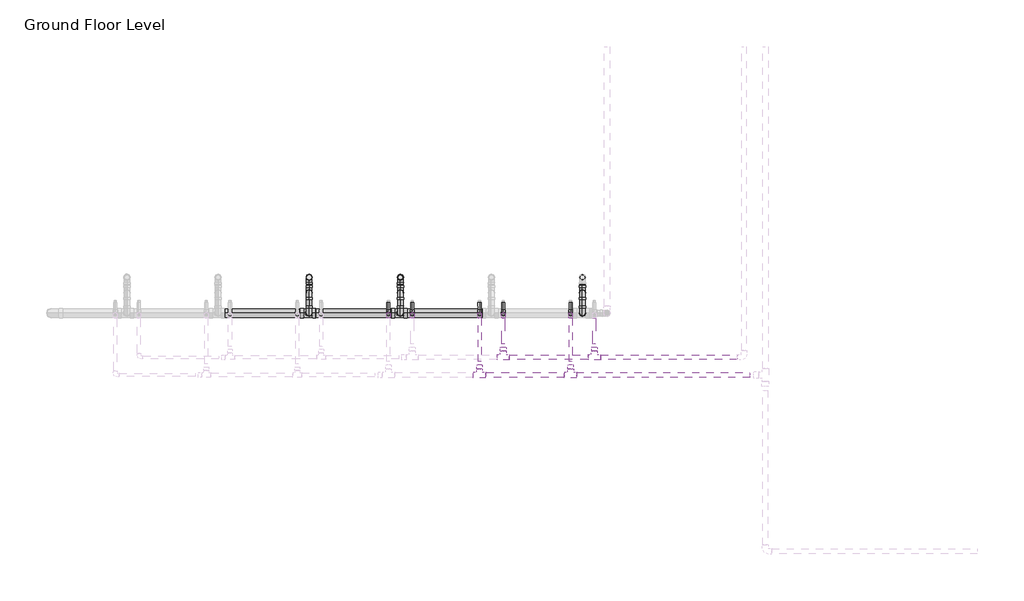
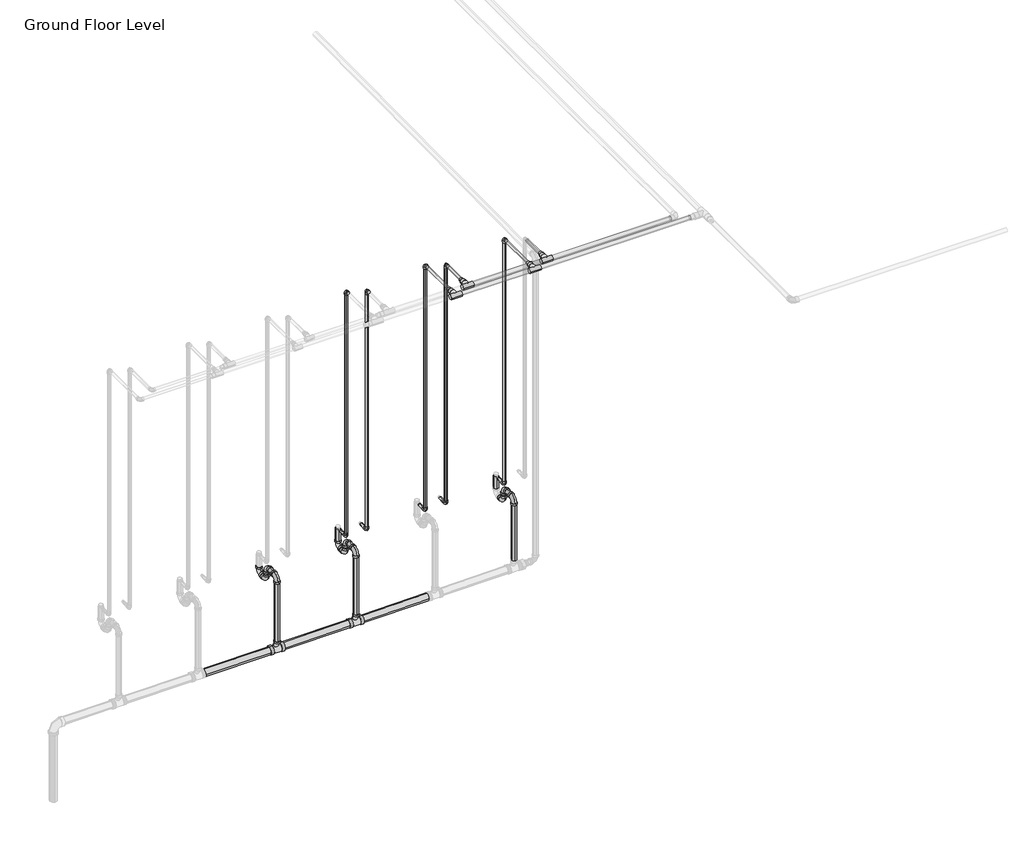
# One storey, part 40 of 68: 34 pipe segments, 31 pipe fittings.
"""IFC4 building model written with IfcOpenShell, lengths in millimetres."""

from ifc_helpers import new_model, si_unit, point, frame, frame_2d, origin, place, context, project, spatial, circle_curve, trimmed, segment, composite_curve, outline, extrude, transform, mapped, element, save
from components import m_bend_pvc_sch_40_dwv_standard_1e7bdcc1, m_bend_pvc_sch_40_dwv_standard_776e50c4, m_tee_reducing_sanitary_pvc_sch_40_dwv_standard_21d2848c, standard_b266ab3f, standard_08ff6011, standard_83629b21

model = new_model("IFC4")

# Units and contexts
model_context = context("Model", 3, world=origin())
ifc_project = project(units=[si_unit("LENGTHUNIT", "METRE", prefix="MILLI")], contexts=[model_context])

# Site, building, storey
site = spatial("IfcSite", under=ifc_project)
building = spatial("IfcBuilding", under=site)
storey = spatial("IfcBuildingStorey", under=building, Name="Ground Floor Level", Elevation=900.0)

# Pipe fittings
placement = place(None, origin())
m_bend_pvc_sch_40_dwv_standard_shape = m_bend_pvc_sch_40_dwv_standard_1e7bdcc1(model_context)
element("IfcPipeFitting", 1, ObjectType="M_Bend - PVC - Sch 40 - DWV : Standard", at=placement, inside=storey, context=model_context, shape_type="MappedRepresentation", body=[
    mapped(m_bend_pvc_sch_40_dwv_standard_shape, transform((-17061.2502, 9143.7835646, 1498.2), x_axis=(0.0, -0.9999500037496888, -0.00999950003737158), y_axis=(0.0, 0.00999950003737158, -0.9999500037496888), z_axis=(1.0, 0.0, 0.0))),
])
element("IfcPipeFitting", 2, ObjectType="M_Bend - PVC - Sch 40 - DWV : Standard", at=placement, inside=storey, context=model_context, shape_type="MappedRepresentation", body=[
    mapped(m_bend_pvc_sch_40_dwv_standard_shape, transform((-18661.2502, 9458.7835646, 1360.0), x_axis=(0.0, 0.9999500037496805, 0.009999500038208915), y_axis=(0.0, -0.009999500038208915, 0.9999500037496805), z_axis=(1.0, 0.0, 0.0))),
])
element("IfcPipeFitting", 3, ObjectType="M_Bend - PVC - Sch 40 - DWV : Standard", at=placement, inside=storey, context=model_context, shape_type="MappedRepresentation", body=[
    mapped(m_bend_pvc_sch_40_dwv_standard_shape, transform((-19461.2502, 9458.7835646, 1360.0), x_axis=(0.0, 0.9999500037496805, 0.009999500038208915), y_axis=(0.0, -0.009999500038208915, 0.9999500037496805), z_axis=(1.0, 0.0, 0.0))),
])
element("IfcPipeFitting", 4, ObjectType="M_Bend - PVC - Sch 40 - DWV : Standard", at=placement, inside=storey, context=model_context, shape_type="MappedRepresentation", body=[
    mapped(m_bend_pvc_sch_40_dwv_standard_shape, transform((-18661.2502, 9143.7835646, 1498.2), x_axis=(0.0, -0.9999500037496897, -0.00999950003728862), y_axis=(0.0, 0.00999950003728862, -0.9999500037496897), z_axis=(1.0, 0.0, 0.0))),
])
element("IfcPipeFitting", 5, ObjectType="M_Bend - PVC - Sch 40 - DWV : Standard", at=placement, inside=storey, context=model_context, shape_type="MappedRepresentation", body=[
    mapped(m_bend_pvc_sch_40_dwv_standard_shape, transform((-19461.2502, 9143.7835646, 1498.2), x_axis=(0.0, -0.9999500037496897, -0.00999950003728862), y_axis=(0.0, 0.00999950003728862, -0.9999500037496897), z_axis=(1.0, 0.0, 0.0))),
])
m_bend_pvc_sch_40_dwv_standard_2_shape = m_bend_pvc_sch_40_dwv_standard_776e50c4(model_context)
element("IfcPipeFitting", 6, ObjectType="M_Bend - PVC - Sch 40 - DWV : Standard", at=placement, inside=storey, context=model_context, shape_type="MappedRepresentation", body=[
    mapped(m_bend_pvc_sch_40_dwv_standard_2_shape, transform((-17061.2502, 9323.7835646, 1358.65), x_axis=(0.0, -0.9999500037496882, -0.009999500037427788), y_axis=(0.0, -0.009999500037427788, 0.9999500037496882), z_axis=(-1.0, 0.0, 0.0))),
])
element("IfcPipeFitting", 7, ObjectType="M_Bend - PVC - Sch 40 - DWV : Standard", at=placement, inside=storey, context=model_context, shape_type="MappedRepresentation", body=[
    mapped(m_bend_pvc_sch_40_dwv_standard_2_shape, transform((-17061.2502, 9323.7835646, 1500.0), x_axis=(0.0, 0.0, 1.0), y_axis=(0.0, -1.0, 0.0), z_axis=(1.0, 0.0, 0.0))),
])
element("IfcPipeFitting", 8, ObjectType="M_Bend - PVC - Sch 40 - DWV : Standard", at=placement, inside=storey, context=model_context, shape_type="MappedRepresentation", body=[
    mapped(m_bend_pvc_sch_40_dwv_standard_2_shape, transform((-18661.2502, 9323.7835646, 1358.65), x_axis=(0.0, -0.9999500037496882, -0.009999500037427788), y_axis=(0.0, -0.009999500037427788, 0.9999500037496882), z_axis=(-1.0, 0.0, 0.0))),
])
element("IfcPipeFitting", 9, ObjectType="M_Bend - PVC - Sch 40 - DWV : Standard", at=placement, inside=storey, context=model_context, shape_type="MappedRepresentation", body=[
    mapped(m_bend_pvc_sch_40_dwv_standard_2_shape, transform((-18661.2502, 9323.7835646, 1500.0), x_axis=(0.0, 0.0, 1.0), y_axis=(0.0, -1.0, 0.0), z_axis=(1.0, 0.0, 0.0))),
])
element("IfcPipeFitting", 10, ObjectType="M_Bend - PVC - Sch 40 - DWV : Standard", at=placement, inside=storey, context=model_context, shape_type="MappedRepresentation", body=[
    mapped(m_bend_pvc_sch_40_dwv_standard_2_shape, transform((-19461.2502, 9323.7835646, 1358.65), x_axis=(0.0, -0.9999500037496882, -0.009999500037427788), y_axis=(0.0, -0.009999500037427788, 0.9999500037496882), z_axis=(-1.0, 0.0, 0.0))),
])
element("IfcPipeFitting", 11, ObjectType="M_Bend - PVC - Sch 40 - DWV : Standard", at=placement, inside=storey, context=model_context, shape_type="MappedRepresentation", body=[
    mapped(m_bend_pvc_sch_40_dwv_standard_2_shape, transform((-19461.2502, 9323.7835646, 1500.0), x_axis=(0.0, 0.0, 1.0), y_axis=(0.0, -1.0, 0.0), z_axis=(1.0, 0.0, 0.0))),
])
m_tee_reducing_sanitary_pvc_sch_40_dwv_standard_shape = m_tee_reducing_sanitary_pvc_sch_40_dwv_standard_21d2848c(model_context)
element("IfcPipeFitting", 12, ObjectType="M_Tee Reducing Sanitary - PVC - Sch 40 - DWV : Standard", at=placement, inside=storey, context=model_context, shape_type="MappedRepresentation", body=[
    mapped(m_tee_reducing_sanitary_pvc_sch_40_dwv_standard_shape, transform((-18661.2502, 9143.7835646, 743.2441999), x_axis=(0.9999500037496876, 0.0, 0.009999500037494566), y_axis=(0.009999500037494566, 0.0, -0.9999500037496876), z_axis=(0.0, 1.0, 0.0))),
])
element("IfcPipeFitting", 13, ObjectType="M_Tee Reducing Sanitary - PVC - Sch 40 - DWV : Standard", at=placement, inside=storey, context=model_context, shape_type="MappedRepresentation", body=[
    mapped(m_tee_reducing_sanitary_pvc_sch_40_dwv_standard_shape, transform((-19461.2502, 9143.7835646, 735.2441999), x_axis=(0.9999500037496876, 0.0, 0.009999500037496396), y_axis=(0.009999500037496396, 0.0, -0.9999500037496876), z_axis=(0.0, 1.0, 0.0))),
])
standard_shape = standard_b266ab3f(model_context)
element("IfcPipeFitting", 14, ObjectType="M_Elbow - CPVC - Sch 40 : Standard", at=placement, inside=storey, context=model_context, shape_type="MappedRepresentation", body=[
    mapped(standard_shape, transform((-18556.7923674, 9135.2153534, 4250.0), x_axis=(0.0, 0.0, 1.0), y_axis=(0.0, -1.0, 0.0), z_axis=(1.0, 0.0, 0.0))),
])
element("IfcPipeFitting", 15, ObjectType="M_Elbow - CPVC - Sch 40 : Standard", at=placement, inside=storey, context=model_context, shape_type="MappedRepresentation", body=[
    mapped(standard_shape, transform((-17756.7923674, 9135.2153534, 4250.0), x_axis=(0.0, 0.0, 1.0), y_axis=(0.0, -1.0, 0.0), z_axis=(1.0, 0.0, 0.0))),
])
element("IfcPipeFitting", 16, ObjectType="M_Elbow - CPVC - Sch 40 : Standard", at=placement, inside=storey, context=model_context, shape_type="MappedRepresentation", body=[
    mapped(standard_shape, transform((-18765.4222086, 9135.2153534, 1690.0), x_axis=(0.0, 0.0, -1.0), y_axis=(-0.0014291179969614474, 0.999998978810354, 0.0), z_axis=(0.999998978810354, 0.0014291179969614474, 0.0))),
])
element("IfcPipeFitting", 17, ObjectType="M_Elbow - CPVC - Sch 40 : Standard", at=placement, inside=storey, context=model_context, shape_type="MappedRepresentation", body=[
    mapped(standard_shape, transform((-18556.7923674, 9135.2153534, 1690.0), x_axis=(0.0, 0.0, -1.0), y_axis=(-0.0014291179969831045, 0.9999989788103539, 0.0), z_axis=(0.9999989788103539, 0.0014291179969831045, 0.0))),
])
element("IfcPipeFitting", 18, ObjectType="M_Elbow - CPVC - Sch 40 : Standard", at=placement, inside=storey, context=model_context, shape_type="MappedRepresentation", body=[
    mapped(standard_shape, transform((-17965.4222086, 9135.2153534, 1690.0), x_axis=(0.0, 0.0, -1.0), y_axis=(0.0, 1.0, 0.0), z_axis=(1.0, 0.0, 0.0))),
])
element("IfcPipeFitting", 19, ObjectType="M_Elbow - CPVC - Sch 40 : Standard", at=placement, inside=storey, context=model_context, shape_type="MappedRepresentation", body=[
    mapped(standard_shape, transform((-17756.7923674, 9135.2153534, 1690.0), x_axis=(0.0, 0.0, -1.0), y_axis=(0.0, 1.0, 0.0), z_axis=(1.0, 0.0, 0.0))),
])
element("IfcPipeFitting", 20, ObjectType="M_Elbow - CPVC - Sch 40 : Standard", at=placement, inside=storey, context=model_context, shape_type="MappedRepresentation", body=[
    mapped(standard_shape, transform((-17165.4222086, 9135.2153534, 1690.0), x_axis=(0.0, 0.0, -1.0), y_axis=(-0.0014291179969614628, 0.999998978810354, 0.0), z_axis=(0.999998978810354, 0.0014291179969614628, 0.0))),
])
element("IfcPipeFitting", 21, ObjectType="M_Elbow - CPVC - Sch 40 : Standard", at=placement, inside=storey, context=model_context, shape_type="MappedRepresentation", body=[
    mapped(standard_shape, transform((-17165.4222086, 9135.2153534, 4315.0), x_axis=(0.0, 0.0, 1.0), y_axis=(0.0, -1.0, 0.0), z_axis=(1.0, 0.0, 0.0))),
])
element("IfcPipeFitting", 22, ObjectType="M_Elbow - CPVC - Sch 40 : Standard", at=placement, inside=storey, context=model_context, shape_type="MappedRepresentation", body=[
    mapped(standard_shape, transform((-17965.4222086, 9135.2153534, 4315.0), x_axis=(0.0, 0.0, 1.0), y_axis=(0.0, -1.0, 0.0), z_axis=(1.0, 0.0, 0.0))),
])
element("IfcPipeFitting", 23, ObjectType="M_Elbow - CPVC - Sch 40 : Standard", at=placement, inside=storey, context=model_context, shape_type="MappedRepresentation", body=[
    mapped(standard_shape, transform((-18765.4222086, 9135.2153534, 4315.0), x_axis=(0.0, 0.0, 1.0), y_axis=(0.0, -1.0, 0.0), z_axis=(1.0, 0.0, 0.0))),
])
standard_2_shape = standard_08ff6011(model_context)
element("IfcPipeFitting", 24, ObjectType="M_Tee - CPVC - Sch 40 : Standard", at=placement, inside=storey, context=model_context, shape_type="MappedRepresentation", body=[
    mapped(standard_2_shape, transform((-17165.4222086, 8599.9071734, 4315.0), x_axis=(1.0, 0.0, 0.0), y_axis=(0.0, -1.0, 0.0), z_axis=(0.0, 0.0, -1.0))),
])
element("IfcPipeFitting", 25, ObjectType="M_Tee - CPVC - Sch 40 : Standard", at=placement, inside=storey, context=model_context, shape_type="MappedRepresentation", body=[
    mapped(standard_2_shape, transform((-17965.4222086, 8599.9071734, 4315.0), x_axis=(1.0, 0.0, 0.0), y_axis=(0.0, -1.0, 0.0), z_axis=(0.0, 0.0, -1.0))),
])
element("IfcPipeFitting", 26, ObjectType="M_Tee - CPVC - Sch 40 : Standard", at=placement, inside=storey, context=model_context, shape_type="MappedRepresentation", body=[
    mapped(standard_2_shape, transform((-17756.7923674, 8755.2153534, 4250.0), x_axis=(-1.0, 0.0, 0.0), y_axis=(0.0, -1.0, 0.0), z_axis=(0.0, 0.0, 1.0))),
])
element("IfcPipeFitting", 27, ObjectType="M_Tee - CPVC - Sch 40 : Standard", at=placement, inside=storey, context=model_context, shape_type="MappedRepresentation", body=[
    mapped(standard_2_shape, transform((-16956.7923674, 8755.2153534, 4250.0), x_axis=(-1.0, 0.0, 0.0), y_axis=(0.0, -1.0, 0.0), z_axis=(0.0, 0.0, 1.0))),
])
standard_3_shape = standard_83629b21(model_context)
element("IfcPipeFitting", 28, ObjectType="M_Coupling Reducing - CPVC - Sch 40 : Standard", at=placement, inside=storey, context=model_context, shape_type="MappedRepresentation", body=[
    mapped(standard_3_shape, transform((-17165.4222086, 8653.8821734, 4315.0), x_axis=(0.0, 1.0, 0.0), y_axis=(-1.0, 0.0, 0.0), z_axis=(0.0, 0.0, 1.0))),
])
element("IfcPipeFitting", 29, ObjectType="M_Coupling Reducing - CPVC - Sch 40 : Standard", at=placement, inside=storey, context=model_context, shape_type="MappedRepresentation", body=[
    mapped(standard_3_shape, transform((-17965.4222086, 8653.8821734, 4315.0), x_axis=(0.0, 1.0, 0.0), y_axis=(-1.0, 0.0, 0.0), z_axis=(0.0, 0.0, 1.0))),
])
element("IfcPipeFitting", 30, ObjectType="M_Coupling Reducing - CPVC - Sch 40 : Standard", at=placement, inside=storey, context=model_context, shape_type="MappedRepresentation", body=[
    mapped(standard_3_shape, transform((-17756.7923674, 8809.1903534, 4250.0), x_axis=(0.0, 1.0, 0.0), y_axis=(-1.0, 0.0, 0.0), z_axis=(0.0, 0.0, 1.0))),
])
element("IfcPipeFitting", 31, ObjectType="M_Coupling Reducing - CPVC - Sch 40 : Standard", at=placement, inside=storey, context=model_context, shape_type="MappedRepresentation", body=[
    mapped(standard_3_shape, transform((-16956.7923674, 8809.1903534, 4250.0), x_axis=(0.0, 1.0, 0.0), y_axis=(-1.0, 0.0, 0.0), z_axis=(0.0, 0.0, 1.0))),
])

# Pipe segments
element("IfcPipeSegment", 32, ObjectType="CPVC", at=placement, inside=storey, context=model_context, shape_type="SweptSolid", body=[
    extrude(outline(composite_curve([segment(trimmed(circle_curve(frame_2d((0.0, 13.335)), 13.335), [point((0.0, 26.67))], [point((13.335, 13.335))], False, "CARTESIAN"), True, "CONTINUOUS"), segment(trimmed(circle_curve(frame_2d((0.0, 13.335)), 13.335), [point((13.335, 13.335))], [point((0.0, 0.0))], False, "CARTESIAN"), True, "CONTINUOUS"), segment(trimmed(circle_curve(frame_2d((0.0, 13.335)), 13.335), [point((0.0, 0.0))], [point((-13.335, 13.335))], False, "CARTESIAN"), True, "CONTINUOUS"), segment(trimmed(circle_curve(frame_2d((0.0, 13.335)), 13.335), [point((-13.335, 13.335))], [point((0.0, 26.67))], False, "CARTESIAN"), True, "CONTINUOUS")], self_intersect=False)), frame((-18778.8076787, 9170.52131, 1690.0), z_axis=(-0.0014291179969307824, 0.999998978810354, 0.0), x_axis=(0.0, 0.0, 1.0)), (0.0, 0.0, 1.0), 64.6750521),
])
element("IfcPipeSegment", 33, ObjectType="CPVC", at=placement, inside=storey, context=model_context, shape_type="SweptSolid", body=[
    extrude(outline(composite_curve([segment(trimmed(circle_curve(frame_2d((-18765.4222086, 9135.2153534)), 13.335), [point((-18778.7572086, 9135.2153534))], [point((-18765.4222086, 9148.5503534))], False, "CARTESIAN"), True, "CONTINUOUS"), segment(trimmed(circle_curve(frame_2d((-18765.4222086, 9135.2153534)), 13.335), [point((-18765.4222086, 9148.5503534))], [point((-18752.0872086, 9135.2153534))], False, "CARTESIAN"), True, "CONTINUOUS"), segment(trimmed(circle_curve(frame_2d((-18765.4222086, 9135.2153534)), 13.335), [point((-18752.0872086, 9135.2153534))], [point((-18765.4222086, 9121.8803534))], False, "CARTESIAN"), True, "CONTINUOUS"), segment(trimmed(circle_curve(frame_2d((-18765.4222086, 9135.2153534)), 13.335), [point((-18765.4222086, 9121.8803534))], [point((-18778.7572086, 9135.2153534))], False, "CARTESIAN"), True, "CONTINUOUS")], self_intersect=False)), frame((0.0, 0.0, 1725.32505), z_axis=(0.0, 0.0, 1.0), x_axis=(1.0, 0.0, 0.0)), (0.0, 0.0, 1.0), 2554.3499),
])
element("IfcPipeSegment", 34, ObjectType="CPVC", at=placement, inside=storey, context=model_context, shape_type="SweptSolid", body=[
    extrude(outline(composite_curve([segment(trimmed(circle_curve(frame_2d((0.0, 13.335)), 13.335), [point((0.0, 26.67))], [point((13.335, 13.335))], False, "CARTESIAN"), True, "CONTINUOUS"), segment(trimmed(circle_curve(frame_2d((0.0, 13.335)), 13.335), [point((13.335, 13.335))], [point((0.0, 0.0))], False, "CARTESIAN"), True, "CONTINUOUS"), segment(trimmed(circle_curve(frame_2d((0.0, 13.335)), 13.335), [point((0.0, 0.0))], [point((-13.335, 13.335))], False, "CARTESIAN"), True, "CONTINUOUS"), segment(trimmed(circle_curve(frame_2d((0.0, 13.335)), 13.335), [point((-13.335, 13.335))], [point((0.0, 26.67))], False, "CARTESIAN"), True, "CONTINUOUS")], self_intersect=False)), frame((-18570.1778375, 9170.52131, 1690.0), z_axis=(-0.0014291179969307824, 0.999998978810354, 0.0), x_axis=(0.0, 0.0, 1.0)), (0.0, 0.0, 1.0), 64.6750521),
])
element("IfcPipeSegment", 35, ObjectType="CPVC", at=placement, inside=storey, context=model_context, shape_type="SweptSolid", body=[
    extrude(outline(composite_curve([segment(trimmed(circle_curve(frame_2d((-18556.7923674, 9135.2153534)), 13.335), [point((-18570.1273674, 9135.2153534))], [point((-18556.7923674, 9148.5503534))], False, "CARTESIAN"), True, "CONTINUOUS"), segment(trimmed(circle_curve(frame_2d((-18556.7923674, 9135.2153534)), 13.335), [point((-18556.7923674, 9148.5503534))], [point((-18543.4573674, 9135.2153534))], False, "CARTESIAN"), True, "CONTINUOUS"), segment(trimmed(circle_curve(frame_2d((-18556.7923674, 9135.2153534)), 13.335), [point((-18543.4573674, 9135.2153534))], [point((-18556.7923674, 9121.8803534))], False, "CARTESIAN"), True, "CONTINUOUS"), segment(trimmed(circle_curve(frame_2d((-18556.7923674, 9135.2153534)), 13.335), [point((-18556.7923674, 9121.8803534))], [point((-18570.1273674, 9135.2153534))], False, "CARTESIAN"), True, "CONTINUOUS")], self_intersect=False)), frame((0.0, 0.0, 1725.32505), z_axis=(0.0, 0.0, 1.0), x_axis=(1.0, 0.0, 0.0)), (0.0, 0.0, 1.0), 2489.3499),
])
element("IfcPipeSegment", 36, ObjectType="CPVC", at=placement, inside=storey, context=model_context, shape_type="SweptSolid", body=[
    extrude(outline(composite_curve([segment(trimmed(circle_curve(frame_2d((0.0, 13.335)), 13.335), [point((13.335, 13.335))], [point((0.0, 0.0))], False, "CARTESIAN"), True, "CONTINUOUS"), segment(trimmed(circle_curve(frame_2d((0.0, 13.335)), 13.335), [point((0.0, 0.0))], [point((-13.3350001, 13.335))], False, "CARTESIAN"), True, "CONTINUOUS"), segment(trimmed(circle_curve(frame_2d((0.0, 13.335)), 13.335), [point((-13.3350001, 13.335))], [point((0.0, 26.67))], False, "CARTESIAN"), True, "CONTINUOUS"), segment(trimmed(circle_curve(frame_2d((0.0, 13.335)), 13.335), [point((0.0, 26.67))], [point((13.335, 13.335))], False, "CARTESIAN"), True, "CONTINUOUS")], self_intersect=False)), frame((-17965.4222086, 9170.5404034, 1703.335), z_axis=(-0.0022096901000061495, 0.9999975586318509, 0.0), x_axis=(0.9999975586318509, 0.0022096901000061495, 0.0)), (0.0, 0.0, 1.0), 64.6751079),
])
element("IfcPipeSegment", 37, ObjectType="CPVC", at=placement, inside=storey, context=model_context, shape_type="SweptSolid", body=[
    extrude(outline(composite_curve([segment(trimmed(circle_curve(frame_2d((4315.0, -17965.4222086)), 13.335), [point((4315.0, -17978.7572086))], [point((4301.665, -17965.4222086))], False, "CARTESIAN"), True, "CONTINUOUS"), segment(trimmed(circle_curve(frame_2d((4315.0, -17965.4222086)), 13.335), [point((4301.665, -17965.4222086))], [point((4315.0, -17952.0872086))], False, "CARTESIAN"), True, "CONTINUOUS"), segment(trimmed(circle_curve(frame_2d((4315.0, -17965.4222086)), 13.335), [point((4315.0, -17952.0872086))], [point((4328.335, -17965.4222086))], False, "CARTESIAN"), True, "CONTINUOUS"), segment(trimmed(circle_curve(frame_2d((4315.0, -17965.4222086)), 13.335), [point((4328.335, -17965.4222086))], [point((4315.0, -17978.7572086))], False, "CARTESIAN"), True, "CONTINUOUS")], self_intersect=False)), frame((0.0, 8716.6990484, 0.0), z_axis=(0.0, 1.0, 0.0), x_axis=(0.0, 0.0, 1.0)), (0.0, 0.0, 1.0), 383.191255),
])
element("IfcPipeSegment", 38, ObjectType="CPVC", at=placement, inside=storey, context=model_context, shape_type="SweptSolid", body=[
    extrude(outline(composite_curve([segment(trimmed(circle_curve(frame_2d((-17965.4222086, 9135.2153534)), 13.335), [point((-17978.7572086, 9135.2153534))], [point((-17965.4222086, 9148.5503534))], False, "CARTESIAN"), True, "CONTINUOUS"), segment(trimmed(circle_curve(frame_2d((-17965.4222086, 9135.2153534)), 13.335), [point((-17965.4222086, 9148.5503534))], [point((-17952.0872086, 9135.2153534))], False, "CARTESIAN"), True, "CONTINUOUS"), segment(trimmed(circle_curve(frame_2d((-17965.4222086, 9135.2153534)), 13.335), [point((-17952.0872086, 9135.2153534))], [point((-17965.4222086, 9121.8803534))], False, "CARTESIAN"), True, "CONTINUOUS"), segment(trimmed(circle_curve(frame_2d((-17965.4222086, 9135.2153534)), 13.335), [point((-17965.4222086, 9121.8803534))], [point((-17978.7572086, 9135.2153534))], False, "CARTESIAN"), True, "CONTINUOUS")], self_intersect=False)), frame((0.0, 0.0, 1725.32505), z_axis=(0.0, 0.0, 1.0), x_axis=(1.0, 0.0, 0.0)), (0.0, 0.0, 1.0), 2554.3499),
])
element("IfcPipeSegment", 39, ObjectType="CPVC", at=placement, inside=storey, context=model_context, shape_type="SweptSolid", body=[
    extrude(outline(composite_curve([segment(trimmed(circle_curve(frame_2d((0.0, 13.335)), 13.335), [point((13.335, 13.335))], [point((0.0, 0.0))], False, "CARTESIAN"), True, "CONTINUOUS"), segment(trimmed(circle_curve(frame_2d((0.0, 13.335)), 13.335), [point((0.0, 0.0))], [point((-13.3350001, 13.335))], False, "CARTESIAN"), True, "CONTINUOUS"), segment(trimmed(circle_curve(frame_2d((0.0, 13.335)), 13.335), [point((-13.3350001, 13.335))], [point((0.0, 26.67))], False, "CARTESIAN"), True, "CONTINUOUS"), segment(trimmed(circle_curve(frame_2d((0.0, 13.335)), 13.335), [point((0.0, 26.67))], [point((13.335, 13.335))], False, "CARTESIAN"), True, "CONTINUOUS")], self_intersect=False)), frame((-17756.7923674, 9170.5404034, 1703.335), z_axis=(-0.002209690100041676, 0.9999975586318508, 0.0), x_axis=(0.9999975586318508, 0.002209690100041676, 0.0)), (0.0, 0.0, 1.0), 64.6751079),
])
element("IfcPipeSegment", 40, ObjectType="CPVC", at=placement, inside=storey, context=model_context, shape_type="SweptSolid", body=[
    extrude(outline(composite_curve([segment(trimmed(circle_curve(frame_2d((4250.0, -17756.7923674)), 13.335), [point((4250.0, -17770.1273674))], [point((4236.665, -17756.7923674))], False, "CARTESIAN"), True, "CONTINUOUS"), segment(trimmed(circle_curve(frame_2d((4250.0, -17756.7923674)), 13.335), [point((4236.665, -17756.7923674))], [point((4250.0, -17743.4573674))], False, "CARTESIAN"), True, "CONTINUOUS"), segment(trimmed(circle_curve(frame_2d((4250.0, -17756.7923674)), 13.335), [point((4250.0, -17743.4573674))], [point((4263.335, -17756.7923674))], False, "CARTESIAN"), True, "CONTINUOUS"), segment(trimmed(circle_curve(frame_2d((4250.0, -17756.7923674)), 13.335), [point((4263.335, -17756.7923674))], [point((4250.0, -17770.1273674))], False, "CARTESIAN"), True, "CONTINUOUS")], self_intersect=False)), frame((0.0, 8872.0072284, 0.0), z_axis=(0.0, 1.0, 0.0), x_axis=(0.0, 0.0, 1.0)), (0.0, 0.0, 1.0), 227.883075),
])
element("IfcPipeSegment", 41, ObjectType="CPVC", at=placement, inside=storey, context=model_context, shape_type="SweptSolid", body=[
    extrude(outline(composite_curve([segment(trimmed(circle_curve(frame_2d((-17756.7923674, 9135.2153534)), 13.335), [point((-17770.1273674, 9135.2153534))], [point((-17756.7923674, 9148.5503534))], False, "CARTESIAN"), True, "CONTINUOUS"), segment(trimmed(circle_curve(frame_2d((-17756.7923674, 9135.2153534)), 13.335), [point((-17756.7923674, 9148.5503534))], [point((-17743.4573674, 9135.2153534))], False, "CARTESIAN"), True, "CONTINUOUS"), segment(trimmed(circle_curve(frame_2d((-17756.7923674, 9135.2153534)), 13.335), [point((-17743.4573674, 9135.2153534))], [point((-17756.7923674, 9121.8803534))], False, "CARTESIAN"), True, "CONTINUOUS"), segment(trimmed(circle_curve(frame_2d((-17756.7923674, 9135.2153534)), 13.335), [point((-17756.7923674, 9121.8803534))], [point((-17770.1273674, 9135.2153534))], False, "CARTESIAN"), True, "CONTINUOUS")], self_intersect=False)), frame((0.0, 0.0, 1725.32505), z_axis=(0.0, 0.0, 1.0), x_axis=(1.0, 0.0, 0.0)), (0.0, 0.0, 1.0), 2489.3499),
])
element("IfcPipeSegment", 42, ObjectType="CPVC", at=placement, inside=storey, context=model_context, shape_type="SweptSolid", body=[
    extrude(outline(composite_curve([segment(trimmed(circle_curve(frame_2d((0.0, 13.335)), 13.335), [point((0.0, 26.67))], [point((13.335, 13.335))], False, "CARTESIAN"), True, "CONTINUOUS"), segment(trimmed(circle_curve(frame_2d((0.0, 13.335)), 13.335), [point((13.335, 13.335))], [point((0.0, 0.0))], False, "CARTESIAN"), True, "CONTINUOUS"), segment(trimmed(circle_curve(frame_2d((0.0, 13.335)), 13.335), [point((0.0, 0.0))], [point((-13.335, 13.335))], False, "CARTESIAN"), True, "CONTINUOUS"), segment(trimmed(circle_curve(frame_2d((0.0, 13.335)), 13.335), [point((-13.335, 13.335))], [point((0.0, 26.67))], False, "CARTESIAN"), True, "CONTINUOUS")], self_intersect=False)), frame((-17178.8076787, 9170.52131, 1690.0), z_axis=(-0.0014291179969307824, 0.999998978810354, 0.0), x_axis=(0.0, 0.0, 1.0)), (0.0, 0.0, 1.0), 64.6750521),
])
element("IfcPipeSegment", 43, ObjectType="CPVC", at=placement, inside=storey, context=model_context, shape_type="SweptSolid", body=[
    extrude(outline(composite_curve([segment(trimmed(circle_curve(frame_2d((4315.0, -17165.4222086)), 13.335), [point((4315.0, -17178.7572086))], [point((4301.665, -17165.4222086))], False, "CARTESIAN"), True, "CONTINUOUS"), segment(trimmed(circle_curve(frame_2d((4315.0, -17165.4222086)), 13.335), [point((4301.665, -17165.4222086))], [point((4315.0, -17152.0872086))], False, "CARTESIAN"), True, "CONTINUOUS"), segment(trimmed(circle_curve(frame_2d((4315.0, -17165.4222086)), 13.335), [point((4315.0, -17152.0872086))], [point((4328.335, -17165.4222086))], False, "CARTESIAN"), True, "CONTINUOUS"), segment(trimmed(circle_curve(frame_2d((4315.0, -17165.4222086)), 13.335), [point((4328.335, -17165.4222086))], [point((4315.0, -17178.7572086))], False, "CARTESIAN"), True, "CONTINUOUS")], self_intersect=False)), frame((0.0, 8716.6990484, 0.0), z_axis=(0.0, 1.0, 0.0), x_axis=(0.0, 0.0, 1.0)), (0.0, 0.0, 1.0), 383.191255),
])
element("IfcPipeSegment", 44, ObjectType="CPVC", at=placement, inside=storey, context=model_context, shape_type="SweptSolid", body=[
    extrude(outline(composite_curve([segment(trimmed(circle_curve(frame_2d((-17165.4222086, 9135.2153534)), 13.335), [point((-17178.7572086, 9135.2153534))], [point((-17165.4222086, 9148.5503534))], False, "CARTESIAN"), True, "CONTINUOUS"), segment(trimmed(circle_curve(frame_2d((-17165.4222086, 9135.2153534)), 13.335), [point((-17165.4222086, 9148.5503534))], [point((-17152.0872086, 9135.2153534))], False, "CARTESIAN"), True, "CONTINUOUS"), segment(trimmed(circle_curve(frame_2d((-17165.4222086, 9135.2153534)), 13.335), [point((-17152.0872086, 9135.2153534))], [point((-17165.4222086, 9121.8803534))], False, "CARTESIAN"), True, "CONTINUOUS"), segment(trimmed(circle_curve(frame_2d((-17165.4222086, 9135.2153534)), 13.335), [point((-17165.4222086, 9121.8803534))], [point((-17178.7572086, 9135.2153534))], False, "CARTESIAN"), True, "CONTINUOUS")], self_intersect=False)), frame((0.0, 0.0, 1725.32505), z_axis=(0.0, 0.0, 1.0), x_axis=(1.0, 0.0, 0.0)), (0.0, 0.0, 1.0), 2554.3499),
])
element("IfcPipeSegment", 45, ObjectType="CPVC", at=placement, inside=storey, context=model_context, shape_type="SweptSolid", body=[
    extrude(outline(composite_curve([segment(trimmed(circle_curve(frame_2d((4250.0, -16956.7923674)), 13.335), [point((4250.0, -16970.1273674))], [point((4236.665, -16956.7923674))], False, "CARTESIAN"), True, "CONTINUOUS"), segment(trimmed(circle_curve(frame_2d((4250.0, -16956.7923674)), 13.335), [point((4236.665, -16956.7923674))], [point((4250.0, -16943.4573674))], False, "CARTESIAN"), True, "CONTINUOUS"), segment(trimmed(circle_curve(frame_2d((4250.0, -16956.7923674)), 13.335), [point((4250.0, -16943.4573674))], [point((4263.335, -16956.7923674))], False, "CARTESIAN"), True, "CONTINUOUS"), segment(trimmed(circle_curve(frame_2d((4250.0, -16956.7923674)), 13.335), [point((4263.335, -16956.7923674))], [point((4250.0, -16970.1273674))], False, "CARTESIAN"), True, "CONTINUOUS")], self_intersect=False)), frame((0.0, 8872.0072284, 0.0), z_axis=(0.0, 1.0, 0.0), x_axis=(0.0, 0.0, 1.0)), (0.0, 0.0, 1.0), 227.883075),
])
element("IfcPipeSegment", 46, ObjectType="CPVC", at=placement, inside=storey, context=model_context, shape_type="SweptSolid", body=[
    extrude(outline(composite_curve([segment(trimmed(circle_curve(frame_2d((8599.9071734, 4315.0)), 21.082), [point((8620.9891734, 4315.0))], [point((8599.9071734, 4293.918))], False, "CARTESIAN"), True, "CONTINUOUS"), segment(trimmed(circle_curve(frame_2d((8599.9071734, 4315.0)), 21.082), [point((8599.9071734, 4293.918))], [point((8578.8251734, 4315.0))], False, "CARTESIAN"), True, "CONTINUOUS"), segment(trimmed(circle_curve(frame_2d((8599.9071734, 4315.0)), 21.082), [point((8578.8251734, 4315.0))], [point((8599.9071734, 4336.082))], False, "CARTESIAN"), True, "CONTINUOUS"), segment(trimmed(circle_curve(frame_2d((8599.9071734, 4315.0)), 21.082), [point((8599.9071734, 4336.082))], [point((8620.9891734, 4315.0))], False, "CARTESIAN"), True, "CONTINUOUS")], self_intersect=False)), frame((-17111.4472086, 0.0, 0.0), z_axis=(1.0, 0.0, 0.0), x_axis=(0.0, 1.0, 0.0)), (0.0, 0.0, 1.0), 1519.3174288),
])
element("IfcPipeSegment", 47, ObjectType="CPVC", at=placement, inside=storey, context=model_context, shape_type="SweptSolid", body=[
    extrude(outline(composite_curve([segment(trimmed(circle_curve(frame_2d((8599.9071734, 4315.0)), 21.082), [point((8620.9891734, 4315.0))], [point((8599.9071734, 4293.918))], False, "CARTESIAN"), True, "CONTINUOUS"), segment(trimmed(circle_curve(frame_2d((8599.9071734, 4315.0)), 21.082), [point((8599.9071734, 4293.918))], [point((8578.8251734, 4315.0))], False, "CARTESIAN"), True, "CONTINUOUS"), segment(trimmed(circle_curve(frame_2d((8599.9071734, 4315.0)), 21.082), [point((8578.8251734, 4315.0))], [point((8599.9071734, 4336.082))], False, "CARTESIAN"), True, "CONTINUOUS"), segment(trimmed(circle_curve(frame_2d((8599.9071734, 4315.0)), 21.082), [point((8599.9071734, 4336.082))], [point((8620.9891734, 4315.0))], False, "CARTESIAN"), True, "CONTINUOUS")], self_intersect=False)), frame((-17911.4472086, 0.0, 0.0), z_axis=(1.0, 0.0, 0.0), x_axis=(0.0, 1.0, 0.0)), (0.0, 0.0, 1.0), 692.05),
])
element("IfcPipeSegment", 48, ObjectType="CPVC", at=placement, inside=storey, context=model_context, shape_type="SweptSolid", body=[
    extrude(outline(composite_curve([segment(trimmed(circle_curve(frame_2d((8755.2153534, 4250.0)), 21.082), [point((8734.1333534, 4250.0))], [point((8755.2153534, 4271.082))], False, "CARTESIAN"), True, "CONTINUOUS"), segment(trimmed(circle_curve(frame_2d((8755.2153534, 4250.0)), 21.082), [point((8755.2153534, 4271.082))], [point((8776.2973534, 4250.0))], False, "CARTESIAN"), True, "CONTINUOUS"), segment(trimmed(circle_curve(frame_2d((8755.2153534, 4250.0)), 21.082), [point((8776.2973534, 4250.0))], [point((8755.2153534, 4228.918))], False, "CARTESIAN"), True, "CONTINUOUS"), segment(trimmed(circle_curve(frame_2d((8755.2153534, 4250.0)), 21.082), [point((8755.2153534, 4228.918))], [point((8734.1333534, 4250.0))], False, "CARTESIAN"), True, "CONTINUOUS")], self_intersect=False)), frame((-16902.8173674, 0.0, 0.0), z_axis=(1.0, 0.0, 0.0), x_axis=(0.0, 1.0, 0.0)), (0.0, 0.0, 1.0), 1202.05625),
])
element("IfcPipeSegment", 49, ObjectType="CPVC", at=placement, inside=storey, context=model_context, shape_type="SweptSolid", body=[
    extrude(outline(composite_curve([segment(trimmed(circle_curve(frame_2d((8755.2153534, 4250.0)), 21.082), [point((8734.1333534, 4250.0))], [point((8755.2153534, 4271.082))], False, "CARTESIAN"), True, "CONTINUOUS"), segment(trimmed(circle_curve(frame_2d((8755.2153534, 4250.0)), 21.082), [point((8755.2153534, 4271.082))], [point((8776.2973534, 4250.0))], False, "CARTESIAN"), True, "CONTINUOUS"), segment(trimmed(circle_curve(frame_2d((8755.2153534, 4250.0)), 21.082), [point((8776.2973534, 4250.0))], [point((8755.2153534, 4228.918))], False, "CARTESIAN"), True, "CONTINUOUS"), segment(trimmed(circle_curve(frame_2d((8755.2153534, 4250.0)), 21.082), [point((8755.2153534, 4228.918))], [point((8734.1333534, 4250.0))], False, "CARTESIAN"), True, "CONTINUOUS")], self_intersect=False)), frame((-17702.8173674, 0.0, 0.0), z_axis=(1.0, 0.0, 0.0), x_axis=(0.0, 1.0, 0.0)), (0.0, 0.0, 1.0), 692.05),
])
element("IfcPipeSegment", 50, ObjectType="PVC - DWV", at=placement, inside=storey, context=model_context, shape_type="SweptSolid", body=[
    extrude(outline(composite_curve([segment(trimmed(circle_curve(frame_2d((-17061.2502, 9458.7835646)), 24.13), [point((-17085.3802, 9458.7835646))], [point((-17061.2502, 9482.9135646))], False, "CARTESIAN"), True, "CONTINUOUS"), segment(trimmed(circle_curve(frame_2d((-17061.2502, 9458.7835646)), 24.13), [point((-17061.2502, 9482.9135646))], [point((-17037.1202, 9458.7835646))], False, "CARTESIAN"), True, "CONTINUOUS"), segment(trimmed(circle_curve(frame_2d((-17061.2502, 9458.7835646)), 24.13), [point((-17037.1202, 9458.7835646))], [point((-17061.2502, 9434.6535646))], False, "CARTESIAN"), True, "CONTINUOUS"), segment(trimmed(circle_curve(frame_2d((-17061.2502, 9458.7835646)), 24.13), [point((-17061.2502, 9434.6535646))], [point((-17085.3802, 9458.7835646))], False, "CARTESIAN"), True, "CONTINUOUS")], self_intersect=False)), frame((0.0, 0.0, 1421.8998), z_axis=(0.0, 0.0, 1.0), x_axis=(1.0, 0.0, 0.0)), (0.0, 0.0, 1.0), 128.1002),
])
element("IfcPipeSegment", 51, ObjectType="PVC - DWV", at=placement, inside=storey, context=model_context, shape_type="SweptSolid", body=[
    extrude(outline(composite_curve([segment(trimmed(circle_curve(frame_2d((0.0, -24.13)), 24.13), [point((-24.13, -24.13))], [point((0.0, 0.0))], False, "CARTESIAN"), True, "CONTINUOUS"), segment(trimmed(circle_curve(frame_2d((0.0, -24.13)), 24.13), [point((0.0, 0.0))], [point((24.13, -24.13))], False, "CARTESIAN"), True, "CONTINUOUS"), segment(trimmed(circle_curve(frame_2d((0.0, -24.13)), 24.13), [point((24.13, -24.13))], [point((0.0, -48.2599999))], False, "CARTESIAN"), True, "CONTINUOUS"), segment(trimmed(circle_curve(frame_2d((0.0, -24.13)), 24.13), [point((0.0, -48.2599999))], [point((-24.13, -24.13))], False, "CARTESIAN"), True, "CONTINUOUS")], self_intersect=False)), frame((-17061.2502, 9385.9215577, 1335.1401735), z_axis=(0.0, 0.9999500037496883, 0.009999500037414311), x_axis=(1.0, 0.0, 0.0)), (0.0, 0.0, 1.0), 11.2071498),
])
element("IfcPipeSegment", 52, ObjectType="PVC - DWV", at=placement, inside=storey, context=model_context, shape_type="SweptSolid", body=[
    extrude(outline(composite_curve([segment(trimmed(circle_curve(frame_2d((-17061.2502, 9323.7835646)), 24.13), [point((-17085.3802, 9323.7835646))], [point((-17061.2502, 9347.9135646))], False, "CARTESIAN"), True, "CONTINUOUS"), segment(trimmed(circle_curve(frame_2d((-17061.2502, 9323.7835646)), 24.13), [point((-17061.2502, 9347.9135646))], [point((-17037.1202, 9323.7835646))], False, "CARTESIAN"), True, "CONTINUOUS"), segment(trimmed(circle_curve(frame_2d((-17061.2502, 9323.7835646)), 24.13), [point((-17037.1202, 9323.7835646))], [point((-17061.2502, 9299.6535646))], False, "CARTESIAN"), True, "CONTINUOUS"), segment(trimmed(circle_curve(frame_2d((-17061.2502, 9323.7835646)), 24.13), [point((-17061.2502, 9299.6535646))], [point((-17085.3802, 9323.7835646))], False, "CARTESIAN"), True, "CONTINUOUS")], self_intersect=False)), frame((0.0, 0.0, 1420.5498), z_axis=(0.0, 0.0, 1.0), x_axis=(1.0, 0.0, 0.0)), (0.0, 0.0, 1.0), 17.5504),
])
element("IfcPipeSegment", 53, ObjectType="PVC - DWV", at=placement, inside=storey, context=model_context, shape_type="SweptSolid", body=[
    extrude(outline(composite_curve([segment(trimmed(circle_curve(frame_2d((0.0, -24.13)), 24.13), [point((-24.13, -24.13))], [point((0.0, 0.0))], False, "CARTESIAN"), True, "CONTINUOUS"), segment(trimmed(circle_curve(frame_2d((0.0, -24.13)), 24.13), [point((0.0, 0.0))], [point((24.13, -24.13))], False, "CARTESIAN"), True, "CONTINUOUS"), segment(trimmed(circle_curve(frame_2d((0.0, -24.13)), 24.13), [point((24.13, -24.13))], [point((0.0, -48.2599999))], False, "CARTESIAN"), True, "CONTINUOUS"), segment(trimmed(circle_curve(frame_2d((0.0, -24.13)), 24.13), [point((0.0, -48.2599999))], [point((-24.13, -24.13))], False, "CARTESIAN"), True, "CONTINUOUS")], self_intersect=False)), frame((-17061.2502, 9205.9215577, 1474.6901735), z_axis=(0.0, 0.9999500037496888, 0.009999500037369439), x_axis=(1.0, 0.0, 0.0)), (0.0, 0.0, 1.0), 56.2093998),
])
element("IfcPipeSegment", 54, ObjectType="PVC - DWV", at=placement, inside=storey, context=model_context, shape_type="SweptSolid", body=[
    extrude(outline(composite_curve([segment(trimmed(circle_curve(frame_2d((-17061.2502, 9143.7835646)), 24.13), [point((-17037.1202, 9143.7835646))], [point((-17061.2502, 9119.6535646))], False, "CARTESIAN"), True, "CONTINUOUS"), segment(trimmed(circle_curve(frame_2d((-17061.2502, 9143.7835646)), 24.13), [point((-17061.2502, 9119.6535646))], [point((-17085.3802, 9143.7835646))], False, "CARTESIAN"), True, "CONTINUOUS"), segment(trimmed(circle_curve(frame_2d((-17061.2502, 9143.7835646)), 24.13), [point((-17085.3802, 9143.7835646))], [point((-17061.2502, 9167.9135646))], False, "CARTESIAN"), True, "CONTINUOUS"), segment(trimmed(circle_curve(frame_2d((-17061.2502, 9143.7835646)), 24.13), [point((-17061.2502, 9167.9135646))], [point((-17037.1202, 9143.7835646))], False, "CARTESIAN"), True, "CONTINUOUS")], self_intersect=False)), frame((0.0, 0.0, 840.0916561), z_axis=(0.0, 0.0, 1.0), x_axis=(1.0, 0.0, 0.0)), (0.0, 0.0, 1.0), 596.2085439),
])
element("IfcPipeSegment", 55, ObjectType="PVC - DWV", at=placement, inside=storey, context=model_context, shape_type="SweptSolid", body=[
    extrude(outline(composite_curve([segment(trimmed(circle_curve(frame_2d((-18661.2502, 9458.7835646)), 24.13), [point((-18685.3802, 9458.7835646))], [point((-18661.2502, 9482.9135646))], False, "CARTESIAN"), True, "CONTINUOUS"), segment(trimmed(circle_curve(frame_2d((-18661.2502, 9458.7835646)), 24.13), [point((-18661.2502, 9482.9135646))], [point((-18637.1202, 9458.7835646))], False, "CARTESIAN"), True, "CONTINUOUS"), segment(trimmed(circle_curve(frame_2d((-18661.2502, 9458.7835646)), 24.13), [point((-18637.1202, 9458.7835646))], [point((-18661.2502, 9434.6535646))], False, "CARTESIAN"), True, "CONTINUOUS"), segment(trimmed(circle_curve(frame_2d((-18661.2502, 9458.7835646)), 24.13), [point((-18661.2502, 9434.6535646))], [point((-18685.3802, 9458.7835646))], False, "CARTESIAN"), True, "CONTINUOUS")], self_intersect=False)), frame((0.0, 0.0, 1421.8998), z_axis=(0.0, 0.0, 1.0), x_axis=(1.0, 0.0, 0.0)), (0.0, 0.0, 1.0), 128.1002),
])
element("IfcPipeSegment", 56, ObjectType="PVC - DWV", at=placement, inside=storey, context=model_context, shape_type="SweptSolid", body=[
    extrude(outline(composite_curve([segment(trimmed(circle_curve(frame_2d((0.0, -24.13)), 24.13), [point((-24.13, -24.13))], [point((0.0, 0.0))], False, "CARTESIAN"), True, "CONTINUOUS"), segment(trimmed(circle_curve(frame_2d((0.0, -24.13)), 24.13), [point((0.0, 0.0))], [point((24.13, -24.13))], False, "CARTESIAN"), True, "CONTINUOUS"), segment(trimmed(circle_curve(frame_2d((0.0, -24.13)), 24.13), [point((24.13, -24.13))], [point((0.0, -48.2599999))], False, "CARTESIAN"), True, "CONTINUOUS"), segment(trimmed(circle_curve(frame_2d((0.0, -24.13)), 24.13), [point((0.0, -48.2599999))], [point((-24.13, -24.13))], False, "CARTESIAN"), True, "CONTINUOUS")], self_intersect=False)), frame((-18661.2502, 9385.9215577, 1335.1401735), z_axis=(0.0, 0.9999500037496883, 0.009999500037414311), x_axis=(1.0, 0.0, 0.0)), (0.0, 0.0, 1.0), 11.2071498),
])
element("IfcPipeSegment", 57, ObjectType="PVC - DWV", at=placement, inside=storey, context=model_context, shape_type="SweptSolid", body=[
    extrude(outline(composite_curve([segment(trimmed(circle_curve(frame_2d((-18661.2502, 9323.7835646)), 24.13), [point((-18685.3802, 9323.7835646))], [point((-18661.2502, 9347.9135646))], False, "CARTESIAN"), True, "CONTINUOUS"), segment(trimmed(circle_curve(frame_2d((-18661.2502, 9323.7835646)), 24.13), [point((-18661.2502, 9347.9135646))], [point((-18637.1202, 9323.7835646))], False, "CARTESIAN"), True, "CONTINUOUS"), segment(trimmed(circle_curve(frame_2d((-18661.2502, 9323.7835646)), 24.13), [point((-18637.1202, 9323.7835646))], [point((-18661.2502, 9299.6535646))], False, "CARTESIAN"), True, "CONTINUOUS"), segment(trimmed(circle_curve(frame_2d((-18661.2502, 9323.7835646)), 24.13), [point((-18661.2502, 9299.6535646))], [point((-18685.3802, 9323.7835646))], False, "CARTESIAN"), True, "CONTINUOUS")], self_intersect=False)), frame((0.0, 0.0, 1420.5498), z_axis=(0.0, 0.0, 1.0), x_axis=(1.0, 0.0, 0.0)), (0.0, 0.0, 1.0), 17.5504),
])
element("IfcPipeSegment", 58, ObjectType="PVC - DWV", at=placement, inside=storey, context=model_context, shape_type="SweptSolid", body=[
    extrude(outline(composite_curve([segment(trimmed(circle_curve(frame_2d((0.0, -24.13)), 24.13), [point((-24.13, -24.13))], [point((0.0, 0.0))], False, "CARTESIAN"), True, "CONTINUOUS"), segment(trimmed(circle_curve(frame_2d((0.0, -24.13)), 24.13), [point((0.0, 0.0))], [point((24.13, -24.13))], False, "CARTESIAN"), True, "CONTINUOUS"), segment(trimmed(circle_curve(frame_2d((0.0, -24.13)), 24.13), [point((24.13, -24.13))], [point((0.0, -48.2599999))], False, "CARTESIAN"), True, "CONTINUOUS"), segment(trimmed(circle_curve(frame_2d((0.0, -24.13)), 24.13), [point((0.0, -48.2599999))], [point((-24.13, -24.13))], False, "CARTESIAN"), True, "CONTINUOUS")], self_intersect=False)), frame((-18661.2502, 9205.9215577, 1474.6901735), z_axis=(0.0, 0.9999500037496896, 0.009999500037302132), x_axis=(1.0, 0.0, 0.0)), (0.0, 0.0, 1.0), 56.2093998),
])
element("IfcPipeSegment", 59, ObjectType="PVC - DWV", at=placement, inside=storey, context=model_context, shape_type="SweptSolid", body=[
    extrude(outline(composite_curve([segment(trimmed(circle_curve(frame_2d((-18661.2502, 9143.7835646)), 24.13), [point((-18685.3802, 9143.7835646))], [point((-18661.2502, 9167.9135646))], False, "CARTESIAN"), True, "CONTINUOUS"), segment(trimmed(circle_curve(frame_2d((-18661.2502, 9143.7835646)), 24.13), [point((-18661.2502, 9167.9135646))], [point((-18637.1202, 9143.7835646))], False, "CARTESIAN"), True, "CONTINUOUS"), segment(trimmed(circle_curve(frame_2d((-18661.2502, 9143.7835646)), 24.13), [point((-18637.1202, 9143.7835646))], [point((-18661.2502, 9119.6535646))], False, "CARTESIAN"), True, "CONTINUOUS"), segment(trimmed(circle_curve(frame_2d((-18661.2502, 9143.7835646)), 24.13), [point((-18661.2502, 9119.6535646))], [point((-18685.3802, 9143.7835646))], False, "CARTESIAN"), True, "CONTINUOUS")], self_intersect=False)), frame((0.0, 0.0, 824.0916561), z_axis=(0.0, 0.0, 1.0), x_axis=(1.0, 0.0, 0.0)), (0.0, 0.0, 1.0), 612.2085439),
])
element("IfcPipeSegment", 60, ObjectType="PVC - DWV", at=placement, inside=storey, context=model_context, shape_type="SweptSolid", body=[
    extrude(outline(composite_curve([segment(trimmed(circle_curve(frame_2d((-19461.2502, 9323.7835646)), 24.13), [point((-19485.3802, 9323.7835646))], [point((-19461.2502, 9347.9135646))], False, "CARTESIAN"), True, "CONTINUOUS"), segment(trimmed(circle_curve(frame_2d((-19461.2502, 9323.7835646)), 24.13), [point((-19461.2502, 9347.9135646))], [point((-19437.1202, 9323.7835646))], False, "CARTESIAN"), True, "CONTINUOUS"), segment(trimmed(circle_curve(frame_2d((-19461.2502, 9323.7835646)), 24.13), [point((-19437.1202, 9323.7835646))], [point((-19461.2502, 9299.6535646))], False, "CARTESIAN"), True, "CONTINUOUS"), segment(trimmed(circle_curve(frame_2d((-19461.2502, 9323.7835646)), 24.13), [point((-19461.2502, 9299.6535646))], [point((-19485.3802, 9323.7835646))], False, "CARTESIAN"), True, "CONTINUOUS")], self_intersect=False)), frame((0.0, 0.0, 1420.5498), z_axis=(0.0, 0.0, 1.0), x_axis=(1.0, 0.0, 0.0)), (0.0, 0.0, 1.0), 17.5504),
])
element("IfcPipeSegment", 61, ObjectType="PVC - DWV", at=placement, inside=storey, context=model_context, shape_type="SweptSolid", body=[
    extrude(outline(composite_curve([segment(trimmed(circle_curve(frame_2d((0.0, -24.13)), 24.13), [point((-24.13, -24.13))], [point((0.0, 0.0))], False, "CARTESIAN"), True, "CONTINUOUS"), segment(trimmed(circle_curve(frame_2d((0.0, -24.13)), 24.13), [point((0.0, 0.0))], [point((24.13, -24.13))], False, "CARTESIAN"), True, "CONTINUOUS"), segment(trimmed(circle_curve(frame_2d((0.0, -24.13)), 24.13), [point((24.13, -24.13))], [point((0.0, -48.2599999))], False, "CARTESIAN"), True, "CONTINUOUS"), segment(trimmed(circle_curve(frame_2d((0.0, -24.13)), 24.13), [point((0.0, -48.2599999))], [point((-24.13, -24.13))], False, "CARTESIAN"), True, "CONTINUOUS")], self_intersect=False)), frame((-19461.2502, 9205.9215577, 1474.6901735), z_axis=(0.0, 0.9999500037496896, 0.009999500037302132), x_axis=(1.0, 0.0, 0.0)), (0.0, 0.0, 1.0), 56.2093998),
])
element("IfcPipeSegment", 62, ObjectType="PVC - DWV", at=placement, inside=storey, context=model_context, shape_type="SweptSolid", body=[
    extrude(outline(composite_curve([segment(trimmed(circle_curve(frame_2d((-19461.2502, 9143.7835646)), 24.13), [point((-19485.3802, 9143.7835646))], [point((-19461.2502, 9167.9135646))], False, "CARTESIAN"), True, "CONTINUOUS"), segment(trimmed(circle_curve(frame_2d((-19461.2502, 9143.7835646)), 24.13), [point((-19461.2502, 9167.9135646))], [point((-19437.1202, 9143.7835646))], False, "CARTESIAN"), True, "CONTINUOUS"), segment(trimmed(circle_curve(frame_2d((-19461.2502, 9143.7835646)), 24.13), [point((-19437.1202, 9143.7835646))], [point((-19461.2502, 9119.6535646))], False, "CARTESIAN"), True, "CONTINUOUS"), segment(trimmed(circle_curve(frame_2d((-19461.2502, 9143.7835646)), 24.13), [point((-19461.2502, 9119.6535646))], [point((-19485.3802, 9143.7835646))], False, "CARTESIAN"), True, "CONTINUOUS")], self_intersect=False)), frame((0.0, 0.0, 816.0916561), z_axis=(0.0, 0.0, 1.0), x_axis=(1.0, 0.0, 0.0)), (0.0, 0.0, 1.0), 620.2085439),
])
element("IfcPipeSegment", 63, ObjectType="PVC - DWV", at=placement, inside=storey, context=model_context, shape_type="SweptSolid", body=[
    extrude(outline(composite_curve([segment(trimmed(circle_curve(frame_2d((0.0, -36.5125)), 36.5125), [point((0.0, 0.0))], [point((36.5125, -36.5125))], False, "CARTESIAN"), True, "CONTINUOUS"), segment(trimmed(circle_curve(frame_2d((0.0, -36.5125)), 36.5125), [point((36.5125, -36.5125))], [point((0.0, -73.025))], False, "CARTESIAN"), True, "CONTINUOUS"), segment(trimmed(circle_curve(frame_2d((0.0, -36.5125)), 36.5125), [point((0.0, -73.025))], [point((-36.5125001, -36.5125))], False, "CARTESIAN"), True, "CONTINUOUS"), segment(trimmed(circle_curve(frame_2d((0.0, -36.5125)), 36.5125), [point((-36.5125001, -36.5125))], [point((0.0, 0.0))], False, "CARTESIAN"), True, "CONTINUOUS")], self_intersect=False)), frame((-18601.7674307, 9180.2960646, 743.8390275), z_axis=(0.9999500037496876, 0.0, 0.009999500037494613), x_axis=(0.009999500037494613, 0.0, -0.9999500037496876)), (0.0, 0.0, 1.0), 661.4911369),
])
element("IfcPipeSegment", 64, ObjectType="PVC - DWV", at=placement, inside=storey, context=model_context, shape_type="SweptSolid", body=[
    extrude(outline(composite_curve([segment(trimmed(circle_curve(frame_2d((0.0, -36.5125)), 36.5125), [point((0.0, 0.0))], [point((36.5125, -36.5125))], False, "CARTESIAN"), True, "CONTINUOUS"), segment(trimmed(circle_curve(frame_2d((0.0, -36.5125)), 36.5125), [point((36.5125, -36.5125))], [point((0.0, -73.025))], False, "CARTESIAN"), True, "CONTINUOUS"), segment(trimmed(circle_curve(frame_2d((0.0, -36.5125)), 36.5125), [point((0.0, -73.025))], [point((-36.5125001, -36.5125))], False, "CARTESIAN"), True, "CONTINUOUS"), segment(trimmed(circle_curve(frame_2d((0.0, -36.5125)), 36.5125), [point((-36.5125001, -36.5125))], [point((0.0, 0.0))], False, "CARTESIAN"), True, "CONTINUOUS")], self_intersect=False)), frame((-19401.7674307, 9180.2960646, 735.8390275), z_axis=(0.9999500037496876, 0.0, 0.009999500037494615), x_axis=(0.009999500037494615, 0.0, -0.9999500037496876)), (0.0, 0.0, 1.0), 661.4911369),
])
element("IfcPipeSegment", 65, ObjectType="PVC - DWV", at=placement, inside=storey, context=model_context, shape_type="SweptSolid", body=[
    extrude(outline(composite_curve([segment(trimmed(circle_curve(frame_2d((0.0, -36.5125)), 36.5125), [point((0.0, 0.0))], [point((36.5125, -36.5125))], False, "CARTESIAN"), True, "CONTINUOUS"), segment(trimmed(circle_curve(frame_2d((0.0, -36.5125)), 36.5125), [point((36.5125, -36.5125))], [point((0.0, -73.025))], False, "CARTESIAN"), True, "CONTINUOUS"), segment(trimmed(circle_curve(frame_2d((0.0, -36.5125)), 36.5125), [point((0.0, -73.025))], [point((-36.5125001, -36.5125))], False, "CARTESIAN"), True, "CONTINUOUS"), segment(trimmed(circle_curve(frame_2d((0.0, -36.5125)), 36.5125), [point((-36.5125001, -36.5125))], [point((0.0, 0.0))], False, "CARTESIAN"), True, "CONTINUOUS")], self_intersect=False)), frame((-20201.7674307, 9180.2960646, 727.8390275), z_axis=(0.9999500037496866, 0.0, 0.00999950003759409), x_axis=(0.00999950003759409, 0.0, -0.9999500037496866)), (0.0, 0.0, 1.0), 661.4911369),
])

save(model, "model.ifc")
